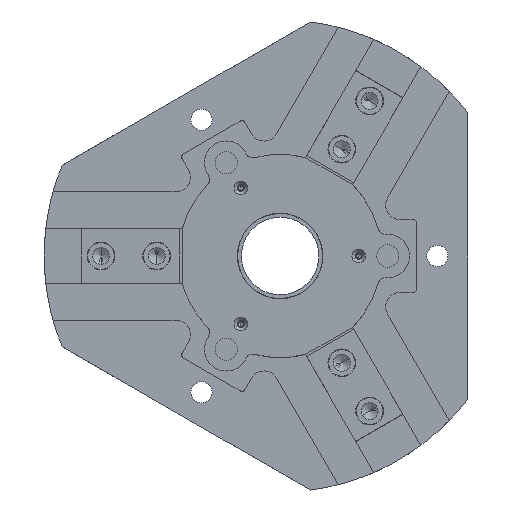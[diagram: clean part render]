
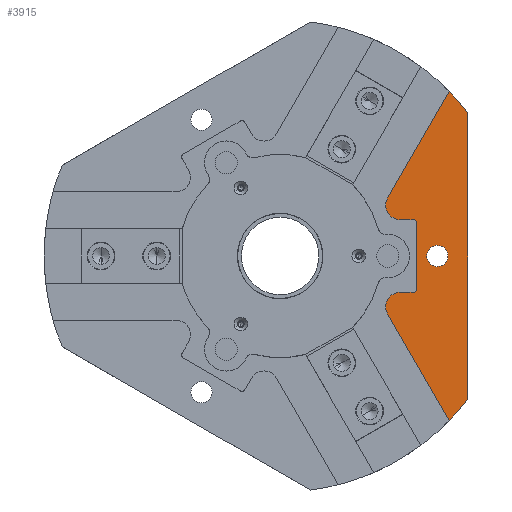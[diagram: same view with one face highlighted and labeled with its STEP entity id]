
A CAD part, front view. The second image highlights one B-rep face of the part: STEP entity #3915.
In plain terms, the highlighted planar face has unit normal (0, -1, 0).
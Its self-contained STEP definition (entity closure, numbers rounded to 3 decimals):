
#38 = EDGE_CURVE ( 'NONE', #12411, #2139, #782, .T. ) ;
#186 = EDGE_CURVE ( 'NONE', #3577, #2517, #12674, .T. ) ;
#219 = EDGE_CURVE ( 'NONE', #4495, #14036, #10389, .T. ) ;
#301 = ORIENTED_EDGE ( 'NONE', *, *, #14917, .T. ) ;
#337 = FACE_OUTER_BOUND ( 'NONE', #3183, .T. ) ;
#491 = LINE ( 'NONE', #12968, #7569 ) ;
#782 = LINE ( 'NONE', #12601, #8448 ) ;
#806 = DIRECTION ( 'NONE',  ( 0., 1., 0. ) ) ;
#825 = ORIENTED_EDGE ( 'NONE', *, *, #3741, .T. ) ;
#843 = VECTOR ( 'NONE', #10918, 1000. ) ;
#851 = VERTEX_POINT ( 'NONE', #7520 ) ;
#990 = CIRCLE ( 'NONE', #8015, 195. ) ;
#1178 = CIRCLE ( 'NONE', #9863, 12. ) ;
#1249 = CARTESIAN_POINT ( 'NONE',  ( 113., 40., -27. ) ) ;
#1519 = DIRECTION ( 'NONE',  ( 0.5, 0., -0.866 ) ) ;
#1764 = CARTESIAN_POINT ( 'NONE',  ( 155., 40., -118.322 ) ) ;
#1844 = DIRECTION ( 'NONE',  ( -0.5, 0., -0.866 ) ) ;
#1871 = ORIENTED_EDGE ( 'NONE', *, *, #5186, .T. ) ;
#2136 = CARTESIAN_POINT ( 'NONE',  ( 130., 40., 0. ) ) ;
#2139 = VERTEX_POINT ( 'NONE', #3406 ) ;
#2207 = VERTEX_POINT ( 'NONE', #8705 ) ;
#2222 = DIRECTION ( 'NONE',  ( 0., 0., -1. ) ) ;
#2334 = DIRECTION ( 'NONE',  ( 0., 0., 1. ) ) ;
#2443 = CARTESIAN_POINT ( 'NONE',  ( 110., 40., 27. ) ) ;
#2517 = VERTEX_POINT ( 'NONE', #14795 ) ;
#2661 = VERTEX_POINT ( 'NONE', #1764 ) ;
#2696 = EDGE_CURVE ( 'NONE', #12785, #3577, #5909, .T. ) ;
#2788 = DIRECTION ( 'NONE',  ( 0., -1., 0. ) ) ;
#2900 = CARTESIAN_POINT ( 'NONE',  ( 99.304, 40., 42. ) ) ;
#3006 = DIRECTION ( 'NONE',  ( 0., -1., 0. ) ) ;
#3183 = EDGE_LOOP ( 'NONE', ( #13800, #8419, #13006, #13902, #13926, #301, #15539, #3404, #1871, #5475, #6064, #825 ) ) ;
#3372 = DIRECTION ( 'NONE',  ( 0., 1., 0. ) ) ;
#3404 = ORIENTED_EDGE ( 'NONE', *, *, #14868, .T. ) ;
#3406 = CARTESIAN_POINT ( 'NONE',  ( 139.729, 40., -136.018 ) ) ;
#3577 = VERTEX_POINT ( 'NONE', #1249 ) ;
#3716 = AXIS2_PLACEMENT_3D ( 'NONE', #9218, #6950, #15531 ) ;
#3741 = EDGE_CURVE ( 'NONE', #14059, #851, #9135, .T. ) ;
#3793 = ORIENTED_EDGE ( 'NONE', *, *, #9355, .T. ) ;
#3879 = DIRECTION ( 'NONE',  ( 0., 0., -1. ) ) ;
#3915 = ADVANCED_FACE ( 'NONE', ( #337, #11058 ), #5725, .T. ) ;
#4040 = CARTESIAN_POINT ( 'NONE',  ( 113., 40., 27. ) ) ;
#4098 = LINE ( 'NONE', #10646, #843 ) ;
#4495 = VERTEX_POINT ( 'NONE', #9677 ) ;
#4519 = CARTESIAN_POINT ( 'NONE',  ( 139.729, 40., 136.018 ) ) ;
#4681 = DIRECTION ( 'NONE',  ( 0., -1., 0. ) ) ;
#4875 = VECTOR ( 'NONE', #9561, 1000. ) ;
#5096 = AXIS2_PLACEMENT_3D ( 'NONE', #13025, #806, #6949 ) ;
#5138 = VECTOR ( 'NONE', #10337, 1000. ) ;
#5186 = EDGE_CURVE ( 'NONE', #2661, #6285, #4098, .T. ) ;
#5239 = CARTESIAN_POINT ( 'NONE',  ( 0., 40., 0. ) ) ;
#5273 = CIRCLE ( 'NONE', #10347, 195. ) ;
#5362 = AXIS2_PLACEMENT_3D ( 'NONE', #2900, #3006, #7731 ) ;
#5420 = CIRCLE ( 'NONE', #15600, 8.75 ) ;
#5475 = ORIENTED_EDGE ( 'NONE', *, *, #12282, .T. ) ;
#5663 = LINE ( 'NONE', #10678, #4875 ) ;
#5725 = PLANE ( 'NONE',  #3716 ) ;
#5909 = LINE ( 'NONE', #13995, #5138 ) ;
#6064 = ORIENTED_EDGE ( 'NONE', *, *, #15725, .T. ) ;
#6285 = VERTEX_POINT ( 'NONE', #9546 ) ;
#6438 = CIRCLE ( 'NONE', #7675, 3. ) ;
#6566 = DIRECTION ( 'NONE',  ( 0., 0., -1. ) ) ;
#6730 = CARTESIAN_POINT ( 'NONE',  ( 88.912, 40., 48. ) ) ;
#6783 = CARTESIAN_POINT ( 'NONE',  ( 130., 40., -8.75 ) ) ;
#6949 = DIRECTION ( 'NONE',  ( 0., 0., -1. ) ) ;
#6950 = DIRECTION ( 'NONE',  ( 0., -1., 0. ) ) ;
#7027 = EDGE_CURVE ( 'NONE', #2207, #12785, #6438, .T. ) ;
#7385 = EDGE_CURVE ( 'NONE', #2517, #10562, #5663, .T. ) ;
#7520 = CARTESIAN_POINT ( 'NONE',  ( 99.304, 40., 30. ) ) ;
#7569 = VECTOR ( 'NONE', #13068, 1000. ) ;
#7614 = CARTESIAN_POINT ( 'NONE',  ( 130., 40., 0. ) ) ;
#7675 = AXIS2_PLACEMENT_3D ( 'NONE', #2443, #14827, #3879 ) ;
#7731 = DIRECTION ( 'NONE',  ( 0., 0., 1. ) ) ;
#8015 = AXIS2_PLACEMENT_3D ( 'NONE', #13601, #13655, #2222 ) ;
#8419 = ORIENTED_EDGE ( 'NONE', *, *, #7027, .T. ) ;
#8448 = VECTOR ( 'NONE', #1519, 1000. ) ;
#8536 = VERTEX_POINT ( 'NONE', #4519 ) ;
#8705 = CARTESIAN_POINT ( 'NONE',  ( 110., 40., 30. ) ) ;
#8905 = ORIENTED_EDGE ( 'NONE', *, *, #219, .T. ) ;
#9135 = CIRCLE ( 'NONE', #5362, 12. ) ;
#9218 = CARTESIAN_POINT ( 'NONE',  ( 0., 40., 0. ) ) ;
#9355 = EDGE_CURVE ( 'NONE', #14036, #4495, #5420, .T. ) ;
#9546 = CARTESIAN_POINT ( 'NONE',  ( 155., 40., 118.322 ) ) ;
#9556 = CARTESIAN_POINT ( 'NONE',  ( 99.304, 40., -30. ) ) ;
#9561 = DIRECTION ( 'NONE',  ( -1., 0., 0. ) ) ;
#9677 = CARTESIAN_POINT ( 'NONE',  ( 130., 40., 8.75 ) ) ;
#9863 = AXIS2_PLACEMENT_3D ( 'NONE', #12042, #4681, #2334 ) ;
#10081 = DIRECTION ( 'NONE',  ( 0., 1., 0. ) ) ;
#10258 = EDGE_LOOP ( 'NONE', ( #3793, #8905 ) ) ;
#10337 = DIRECTION ( 'NONE',  ( 0., 0., -1. ) ) ;
#10347 = AXIS2_PLACEMENT_3D ( 'NONE', #5239, #2788, #6566 ) ;
#10389 = CIRCLE ( 'NONE', #11169, 8.75 ) ;
#10562 = VERTEX_POINT ( 'NONE', #9556 ) ;
#10646 = CARTESIAN_POINT ( 'NONE',  ( 155., 40., 0. ) ) ;
#10678 = CARTESIAN_POINT ( 'NONE',  ( 0., 40., -30. ) ) ;
#10759 = DIRECTION ( 'NONE',  ( 0., 0., -1. ) ) ;
#10918 = DIRECTION ( 'NONE',  ( 0., 0., 1. ) ) ;
#11058 = FACE_BOUND ( 'NONE', #10258, .T. ) ;
#11169 = AXIS2_PLACEMENT_3D ( 'NONE', #2136, #3372, #10759 ) ;
#11324 = DIRECTION ( 'NONE',  ( 0., 0., -1. ) ) ;
#12042 = CARTESIAN_POINT ( 'NONE',  ( 99.304, 40., -42. ) ) ;
#12282 = EDGE_CURVE ( 'NONE', #6285, #8536, #5273, .T. ) ;
#12411 = VERTEX_POINT ( 'NONE', #14312 ) ;
#12438 = EDGE_CURVE ( 'NONE', #851, #2207, #491, .T. ) ;
#12601 = CARTESIAN_POINT ( 'NONE',  ( 88.912, 40., -48. ) ) ;
#12657 = VECTOR ( 'NONE', #1844, 1000. ) ;
#12674 = CIRCLE ( 'NONE', #5096, 3. ) ;
#12785 = VERTEX_POINT ( 'NONE', #4040 ) ;
#12968 = CARTESIAN_POINT ( 'NONE',  ( 0., 40., 30. ) ) ;
#13006 = ORIENTED_EDGE ( 'NONE', *, *, #2696, .T. ) ;
#13025 = CARTESIAN_POINT ( 'NONE',  ( 110., 40., -27. ) ) ;
#13035 = CARTESIAN_POINT ( 'NONE',  ( 139.729, 40., 136.018 ) ) ;
#13068 = DIRECTION ( 'NONE',  ( 1., 0., 0. ) ) ;
#13601 = CARTESIAN_POINT ( 'NONE',  ( 0., 40., 0. ) ) ;
#13655 = DIRECTION ( 'NONE',  ( 0., -1., 0. ) ) ;
#13800 = ORIENTED_EDGE ( 'NONE', *, *, #12438, .T. ) ;
#13902 = ORIENTED_EDGE ( 'NONE', *, *, #186, .T. ) ;
#13926 = ORIENTED_EDGE ( 'NONE', *, *, #7385, .T. ) ;
#13995 = CARTESIAN_POINT ( 'NONE',  ( 113., 40., 0. ) ) ;
#14036 = VERTEX_POINT ( 'NONE', #6783 ) ;
#14059 = VERTEX_POINT ( 'NONE', #6730 ) ;
#14312 = CARTESIAN_POINT ( 'NONE',  ( 88.912, 40., -48. ) ) ;
#14795 = CARTESIAN_POINT ( 'NONE',  ( 110., 40., -30. ) ) ;
#14827 = DIRECTION ( 'NONE',  ( 0., 1., 0. ) ) ;
#14868 = EDGE_CURVE ( 'NONE', #2139, #2661, #990, .T. ) ;
#14917 = EDGE_CURVE ( 'NONE', #10562, #12411, #1178, .T. ) ;
#15531 = DIRECTION ( 'NONE',  ( 0., 0., -1. ) ) ;
#15539 = ORIENTED_EDGE ( 'NONE', *, *, #38, .T. ) ;
#15600 = AXIS2_PLACEMENT_3D ( 'NONE', #7614, #10081, #11324 ) ;
#15725 = EDGE_CURVE ( 'NONE', #8536, #14059, #15906, .T. ) ;
#15906 = LINE ( 'NONE', #13035, #12657 ) ;
